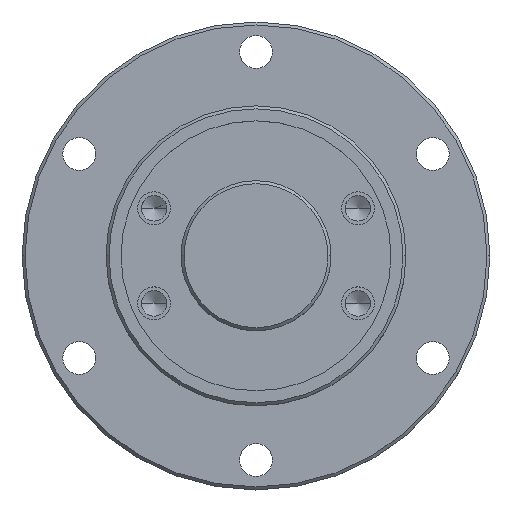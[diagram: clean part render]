
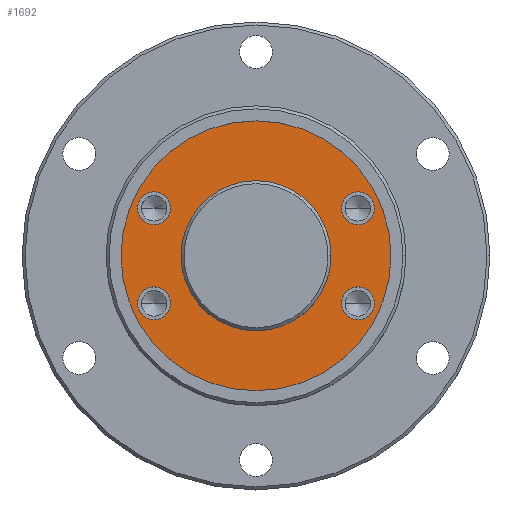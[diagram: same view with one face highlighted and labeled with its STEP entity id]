
A CAD part, top view. The second image highlights one B-rep face of the part: STEP entity #1692.
In plain terms, the highlighted planar face has unit normal (0, 0, 1).
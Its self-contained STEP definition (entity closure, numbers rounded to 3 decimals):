
#6 = CIRCLE ( 'NONE', #2833, 45. ) ;
#22 = ORIENTED_EDGE ( 'NONE', *, *, #1433, .F. ) ;
#76 = VERTEX_POINT ( 'NONE', #4216 ) ;
#147 = EDGE_CURVE ( 'NONE', #2596, #4035, #4390, .T. ) ;
#177 = CARTESIAN_POINT ( 'NONE',  ( 33.987, 15.848, 0. ) ) ;
#198 = AXIS2_PLACEMENT_3D ( 'NONE', #4107, #1849, #4494 ) ;
#215 = CIRCLE ( 'NONE', #1543, 5.5 ) ;
#249 = EDGE_CURVE ( 'NONE', #2396, #3980, #2147, .T. ) ;
#279 = CARTESIAN_POINT ( 'NONE',  ( 0., 0., 0. ) ) ;
#299 = EDGE_CURVE ( 'NONE', #4035, #2596, #3788, .T. ) ;
#370 = EDGE_CURVE ( 'NONE', #3423, #4096, #1208, .T. ) ;
#396 = FACE_BOUND ( 'NONE', #1383, .T. ) ;
#495 = EDGE_LOOP ( 'NONE', ( #1640, #2290 ) ) ;
#529 = CARTESIAN_POINT ( 'NONE',  ( 28.487, 15.848, 0. ) ) ;
#535 = DIRECTION ( 'NONE',  ( 0., 0., 1. ) ) ;
#574 = DIRECTION ( 'NONE',  ( 1., 0., 0. ) ) ;
#663 = DIRECTION ( 'NONE',  ( 1., 0., 0. ) ) ;
#673 = ORIENTED_EDGE ( 'NONE', *, *, #2083, .F. ) ;
#692 = ORIENTED_EDGE ( 'NONE', *, *, #249, .F. ) ;
#825 = ORIENTED_EDGE ( 'NONE', *, *, #3895, .F. ) ;
#953 = AXIS2_PLACEMENT_3D ( 'NONE', #2974, #2234, #4862 ) ;
#986 = CARTESIAN_POINT ( 'NONE',  ( 39.487, 15.848, 0. ) ) ;
#992 = CARTESIAN_POINT ( 'NONE',  ( -33.987, -15.848, 0. ) ) ;
#1014 = AXIS2_PLACEMENT_3D ( 'NONE', #992, #3598, #1363 ) ;
#1208 = CIRCLE ( 'NONE', #3757, 5.5 ) ;
#1239 = EDGE_LOOP ( 'NONE', ( #2417, #673 ) ) ;
#1282 = DIRECTION ( 'NONE',  ( 0., 0., 1. ) ) ;
#1283 = EDGE_CURVE ( 'NONE', #2312, #76, #2662, .T. ) ;
#1354 = AXIS2_PLACEMENT_3D ( 'NONE', #3522, #1282, #3901 ) ;
#1363 = DIRECTION ( 'NONE',  ( 1., 0., 0. ) ) ;
#1372 = CARTESIAN_POINT ( 'NONE',  ( -45., 0., 0. ) ) ;
#1378 = EDGE_CURVE ( 'NONE', #4514, #3099, #1668, .T. ) ;
#1383 = EDGE_LOOP ( 'NONE', ( #692, #825 ) ) ;
#1387 = FACE_BOUND ( 'NONE', #495, .T. ) ;
#1433 = EDGE_CURVE ( 'NONE', #4164, #4487, #215, .T. ) ;
#1445 = ORIENTED_EDGE ( 'NONE', *, *, #1378, .T. ) ;
#1451 = DIRECTION ( 'NONE',  ( 0., 0., 1. ) ) ;
#1466 = EDGE_CURVE ( 'NONE', #76, #2312, #2957, .T. ) ;
#1498 = FACE_BOUND ( 'NONE', #1239, .T. ) ;
#1543 = AXIS2_PLACEMENT_3D ( 'NONE', #3906, #1666, #4288 ) ;
#1545 = DIRECTION ( 'NONE',  ( 0., 0., 1. ) ) ;
#1640 = ORIENTED_EDGE ( 'NONE', *, *, #147, .F. ) ;
#1651 = DIRECTION ( 'NONE',  ( 0., 0., 1. ) ) ;
#1666 = DIRECTION ( 'NONE',  ( 0., 0., 1. ) ) ;
#1668 = CIRCLE ( 'NONE', #4402, 45. ) ;
#1688 = EDGE_CURVE ( 'NONE', #4487, #4164, #4379, .T. ) ;
#1692 = ADVANCED_FACE ( 'NONE', ( #4607, #1498, #2493, #1387, #396, #4247 ), #3358, .F. ) ;
#1694 = DIRECTION ( 'NONE',  ( 0., 0., 1. ) ) ;
#1725 = CARTESIAN_POINT ( 'NONE',  ( 28.487, -15.848, 0. ) ) ;
#1789 = CARTESIAN_POINT ( 'NONE',  ( 33.987, 15.848, 0. ) ) ;
#1849 = DIRECTION ( 'NONE',  ( 0., 0., 1. ) ) ;
#2029 = AXIS2_PLACEMENT_3D ( 'NONE', #3942, #1694, #4329 ) ;
#2083 = EDGE_CURVE ( 'NONE', #4096, #3423, #3831, .T. ) ;
#2127 = ORIENTED_EDGE ( 'NONE', *, *, #1283, .F. ) ;
#2147 = CIRCLE ( 'NONE', #4621, 5.5 ) ;
#2165 = DIRECTION ( 'NONE',  ( 1., 0., 0. ) ) ;
#2234 = DIRECTION ( 'NONE',  ( 0., 0., -1. ) ) ;
#2290 = ORIENTED_EDGE ( 'NONE', *, *, #299, .F. ) ;
#2312 = VERTEX_POINT ( 'NONE', #3594 ) ;
#2356 = AXIS2_PLACEMENT_3D ( 'NONE', #177, #2795, #574 ) ;
#2385 = AXIS2_PLACEMENT_3D ( 'NONE', #279, #2885, #663 ) ;
#2396 = VERTEX_POINT ( 'NONE', #4000 ) ;
#2417 = ORIENTED_EDGE ( 'NONE', *, *, #370, .F. ) ;
#2449 = CARTESIAN_POINT ( 'NONE',  ( 45., 0., 0. ) ) ;
#2493 = FACE_BOUND ( 'NONE', #3164, .T. ) ;
#2596 = VERTEX_POINT ( 'NONE', #4508 ) ;
#2650 = ORIENTED_EDGE ( 'NONE', *, *, #1688, .F. ) ;
#2662 = CIRCLE ( 'NONE', #2385, 25. ) ;
#2745 = ORIENTED_EDGE ( 'NONE', *, *, #1466, .F. ) ;
#2749 = CARTESIAN_POINT ( 'NONE',  ( 0., 0., 0. ) ) ;
#2795 = DIRECTION ( 'NONE',  ( 0., 0., 1. ) ) ;
#2797 = EDGE_CURVE ( 'NONE', #3099, #4514, #6, .T. ) ;
#2833 = AXIS2_PLACEMENT_3D ( 'NONE', #2749, #535, #3144 ) ;
#2885 = DIRECTION ( 'NONE',  ( 0., 0., 1. ) ) ;
#2957 = CIRCLE ( 'NONE', #2029, 25. ) ;
#2974 = CARTESIAN_POINT ( 'NONE',  ( 0., 45., 0. ) ) ;
#3099 = VERTEX_POINT ( 'NONE', #2449 ) ;
#3144 = DIRECTION ( 'NONE',  ( 1., 0., 0. ) ) ;
#3164 = EDGE_LOOP ( 'NONE', ( #22, #2650 ) ) ;
#3343 = EDGE_LOOP ( 'NONE', ( #4206, #1445 ) ) ;
#3358 = PLANE ( 'NONE',  #953 ) ;
#3423 = VERTEX_POINT ( 'NONE', #986 ) ;
#3444 = CARTESIAN_POINT ( 'NONE',  ( -39.487, 15.848, 0. ) ) ;
#3522 = CARTESIAN_POINT ( 'NONE',  ( -33.987, -15.848, 0. ) ) ;
#3591 = CIRCLE ( 'NONE', #4471, 5.5 ) ;
#3594 = CARTESIAN_POINT ( 'NONE',  ( -25., 0., 0. ) ) ;
#3598 = DIRECTION ( 'NONE',  ( 0., 0., 1. ) ) ;
#3677 = CARTESIAN_POINT ( 'NONE',  ( 0., 0., 0. ) ) ;
#3757 = AXIS2_PLACEMENT_3D ( 'NONE', #1789, #4425, #2165 ) ;
#3785 = CARTESIAN_POINT ( 'NONE',  ( -33.987, 15.848, 0. ) ) ;
#3788 = CIRCLE ( 'NONE', #1014, 5.5 ) ;
#3831 = CIRCLE ( 'NONE', #2356, 5.5 ) ;
#3850 = CARTESIAN_POINT ( 'NONE',  ( -39.487, -15.848, 0. ) ) ;
#3895 = EDGE_CURVE ( 'NONE', #3980, #2396, #3591, .T. ) ;
#3899 = CARTESIAN_POINT ( 'NONE',  ( -33.987, 15.848, 0. ) ) ;
#3901 = DIRECTION ( 'NONE',  ( 1., 0., 0. ) ) ;
#3906 = CARTESIAN_POINT ( 'NONE',  ( 33.987, -15.848, 0. ) ) ;
#3942 = CARTESIAN_POINT ( 'NONE',  ( 0., 0., 0. ) ) ;
#3980 = VERTEX_POINT ( 'NONE', #3444 ) ;
#4000 = CARTESIAN_POINT ( 'NONE',  ( -28.487, 15.848, 0. ) ) ;
#4035 = VERTEX_POINT ( 'NONE', #3850 ) ;
#4055 = DIRECTION ( 'NONE',  ( 1., 0., 0. ) ) ;
#4096 = VERTEX_POINT ( 'NONE', #529 ) ;
#4107 = CARTESIAN_POINT ( 'NONE',  ( 33.987, -15.848, 0. ) ) ;
#4108 = EDGE_LOOP ( 'NONE', ( #2745, #2127 ) ) ;
#4159 = DIRECTION ( 'NONE',  ( 1., 0., 0. ) ) ;
#4164 = VERTEX_POINT ( 'NONE', #4690 ) ;
#4206 = ORIENTED_EDGE ( 'NONE', *, *, #2797, .T. ) ;
#4216 = CARTESIAN_POINT ( 'NONE',  ( 25., 0., 0. ) ) ;
#4247 = FACE_OUTER_BOUND ( 'NONE', #3343, .T. ) ;
#4277 = DIRECTION ( 'NONE',  ( 1., 0., 0. ) ) ;
#4288 = DIRECTION ( 'NONE',  ( 1., 0., 0. ) ) ;
#4329 = DIRECTION ( 'NONE',  ( 1., 0., 0. ) ) ;
#4379 = CIRCLE ( 'NONE', #198, 5.5 ) ;
#4390 = CIRCLE ( 'NONE', #1354, 5.5 ) ;
#4402 = AXIS2_PLACEMENT_3D ( 'NONE', #3677, #1451, #4055 ) ;
#4425 = DIRECTION ( 'NONE',  ( 0., 0., 1. ) ) ;
#4471 = AXIS2_PLACEMENT_3D ( 'NONE', #3785, #1545, #4159 ) ;
#4487 = VERTEX_POINT ( 'NONE', #1725 ) ;
#4494 = DIRECTION ( 'NONE',  ( 1., 0., 0. ) ) ;
#4508 = CARTESIAN_POINT ( 'NONE',  ( -28.487, -15.848, 0. ) ) ;
#4514 = VERTEX_POINT ( 'NONE', #1372 ) ;
#4607 = FACE_BOUND ( 'NONE', #4108, .T. ) ;
#4621 = AXIS2_PLACEMENT_3D ( 'NONE', #3899, #1651, #4277 ) ;
#4690 = CARTESIAN_POINT ( 'NONE',  ( 39.487, -15.848, 0. ) ) ;
#4862 = DIRECTION ( 'NONE',  ( -1., 0., 0. ) ) ;
